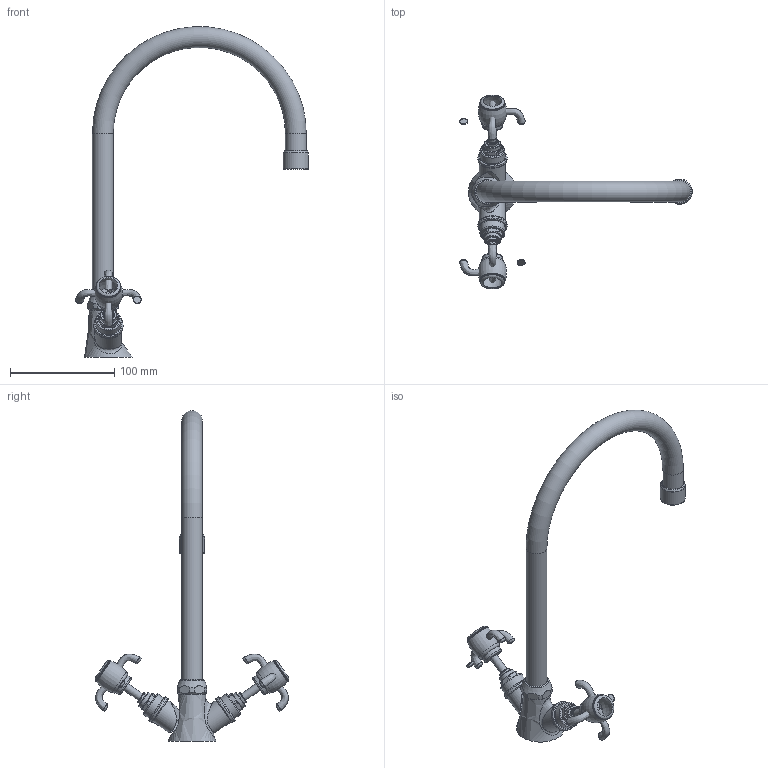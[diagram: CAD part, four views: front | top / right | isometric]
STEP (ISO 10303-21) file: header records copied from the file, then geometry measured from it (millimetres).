
FILE_DESCRIPTION(('STEP AP242'), '1');
FILE_NAME('87CR572KM', '', ('UNSPECIFIED'), ('UNSPECIFIED'), 'ASCON STEP Converter 1.6', 'ASCON Math Kernel', '');
FILE_SCHEMA(('AP242_MANAGED_MODEL_BASED_3D_ENGINEERING_MIM_LF { 1 0 10303 442 1 1 4 }'));
Length unit declared in the file: millimetre
Assembly tree (3 placements, depth 2):
  (unnamed)
    (unnamed)
    (unnamed)  x2
Bounding box: 223.06 x 185.97 x 316.85 mm (x, y, z)
Volume: 248430.4 mm3; surface area: 57206.4 mm2
Topology: 5 solids, 8 shells, 483 faces, 852 edges, 554 vertices
Faces by surface type: plane 222, cylinder 205, bspline 24, torus 19, cone 7, revolution 6
Full cylindrical faces by diameter (mm): 7.579 x2, 16 x2, 20 x4, 24 x3, 25 x2, 28 x2
Entity records: 55125 total; most frequent: CARTESIAN_POINT 48084, DIRECTION 1018, ORIENTED_EDGE 834, AXIS2_PLACEMENT_3D 483, EDGE_CURVE 419, EDGE_LOOP 388, FACE_BOUND 319, VERTEX_POINT 297
